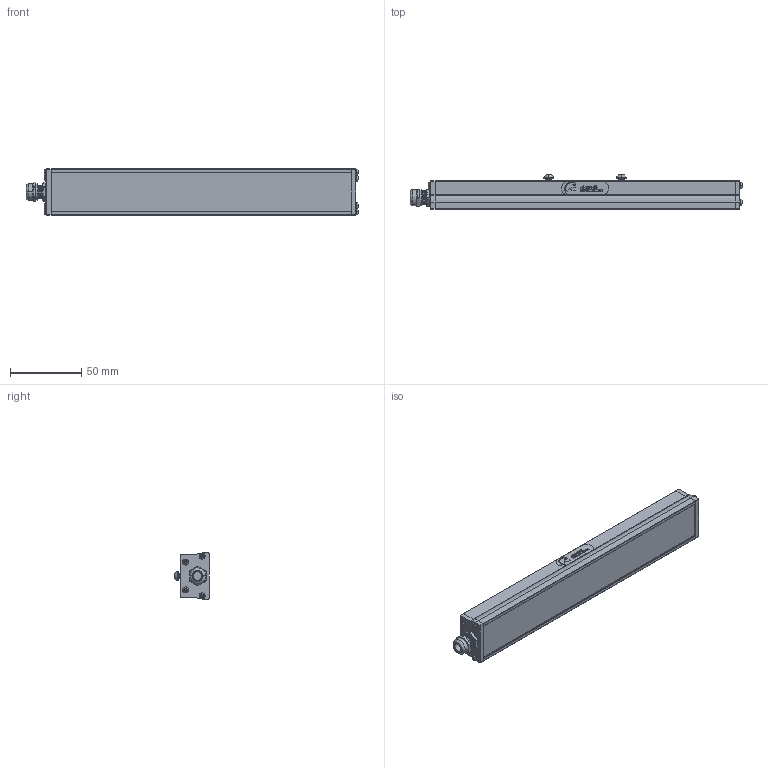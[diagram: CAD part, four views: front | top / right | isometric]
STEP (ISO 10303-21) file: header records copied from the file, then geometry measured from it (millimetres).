
FILE_DESCRIPTION (( 'STEP AP214' ), '1' );
FILE_NAME ('AL116 _NONSEALED__ALL11608.stp', '2021-04-29T14:22:09', ( '' ), ( '' ), 'SwSTEP 2.0', 'SolidWorks 2018', '' );
FILE_SCHEMA (( 'AUTOMOTIVE_DESIGN' ));
Length unit declared in the file: inch
Products named in the file (15): 090870; AL116 _NONSEALED__ALL11608; 090888-XX_090888-08; 091052 (116 126); 093474_093474; 093469_093469; 10mm Label (116 126)_Default<As Machined>; BH-M4x6; HN-M4_90592A016; 10mm Advanced illumination; 090878-XX_090878-08; 10mm Swish_Default<As Machined>; 10mm Ai; 091064_Model_Dome Fittings_Thread Type and Size(Dome)_M10 x 1.5_Hazardous Location-Explosive Proof(ATEX and EExe Versions)_No_; 090869
Assembly tree (24 placements, depth 3):
  AL116 _NONSEALED__ALL11608
    090888-XX_090888-08
    093469_093469  x2
    090869
    090870
    090878-XX_090878-08
    093474_093474  x8
    091064_Model_Dome Fittings_Thread Type and Size(Dome)_M10 x 1.5_Hazardous Location-Explosive Proof(ATEX and EExe Versions)_No_
    091052 (116 126)
      10mm Label (116 126)_Default<As Machined>
      10mm Ai
      10mm Swish_Default<As Machined>
      10mm Advanced illumination
    HN-M4_90592A016  x2
    BH-M4x6  x2
Bounding box: 232.33 x 24.1 x 32.21 mm (x, y, z)
Volume: 44651.6 mm3; surface area: 64659.4 mm2
Topology: 48 solids, 48 shells, 1911 faces, 4942 edges, 3078 vertices
Faces by surface type: cylinder 954, plane 413, cone 362, bspline 122, torus 60
Entity records: 31843 total; most frequent: CARTESIAN_POINT 11151, ORIENTED_EDGE 4280, DIRECTION 3753, EDGE_CURVE 2140, VERTEX_POINT 1366, AXIS2_PLACEMENT_3D 1335, VECTOR 1083, LINE 1083
